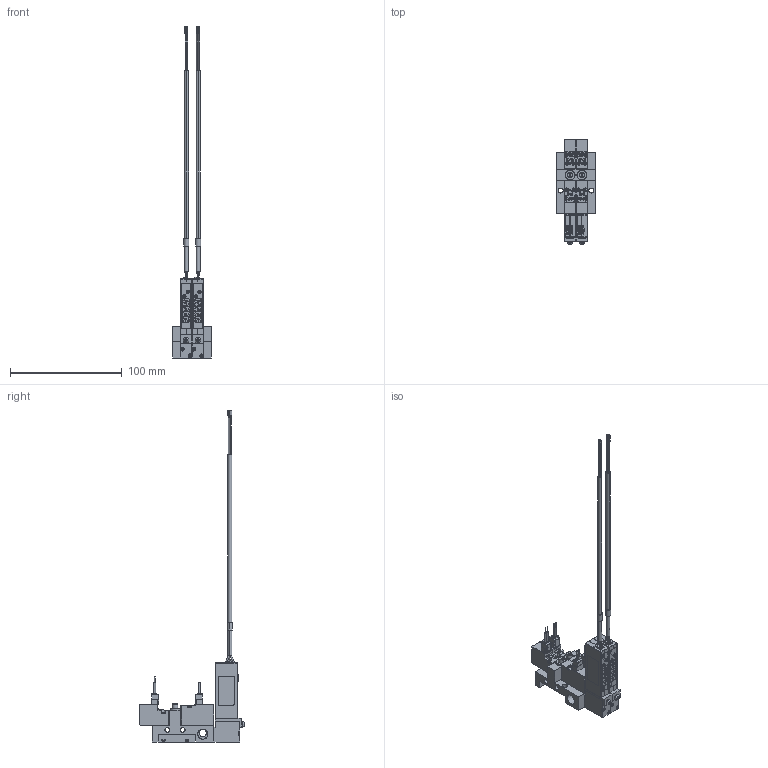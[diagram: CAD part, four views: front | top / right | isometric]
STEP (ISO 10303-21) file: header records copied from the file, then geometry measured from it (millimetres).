
FILE_DESCRIPTION(('STEP AP203'),'1');
FILE_NAME('2-NO(NC)-4EZ-M02-V9.stp','2025-05-09T00:47:12',(' '),(' '),'Spatial InterOp 3D',' ',' ');
FILE_SCHEMA(('CONFIG_CONTROL_DESIGN'));
Length unit declared in the file: millimetre
Products named in the file (60): PV1※2-NO(NC)-4EZ-M02-V9; BODY; PLATE; NEEDLE; BOLT; SOLENOID VALVE VOLTAGE PV; 42; 45; 48; 51; BRAKET(MPS-V9  PV용)NEW; BRAKET; MPS-V9AC.ics; __1; MPS-V9AC; MSBR-29_1; MSBR-28_1; MSBR-27_1; MSBR-26_1; MSBR-25_1; MSBR-24_1; MSBR-21_1; MSBR-7_1; MSBR-4_1; MSBR-1_1; SOLENOID VALVE VOLTAGE PV-NC2
Assembly tree (59 placements, depth 5):
  PV1※2-NO(NC)-4EZ-M02-V9
    BODY
    PLATE
    PLATE
    NEEDLE
    NEEDLE
    BOLT
    BOLT
    BOLT
    BOLT
    BOLT
    BOLT
    SOLENOID VALVE VOLTAGE PV
      42
      45
      48
      51
    SOLENOID VALVE VOLTAGE PV
      42
      45
      48
      51
    BRAKET(MPS-V9  PV용)NEW
      BRAKET
      BOLT
      BOLT
      MPS-V9AC.ics
        __1
        MPS-V9AC
          MSBR-29_1
          MSBR-28_1
          MSBR-27_1
          MSBR-26_1
          MSBR-25_1
          MSBR-24_1
          MSBR-21_1
          MSBR-7_1
          MSBR-4_1
          MSBR-4_1
          MSBR-1_1
    BRAKET(MPS-V9  PV용)NEW
      BRAKET
      BOLT
      BOLT
      MPS-V9AC.ics
        __1
        MPS-V9AC
          MSBR-29_1
          MSBR-28_1
          MSBR-27_1
          MSBR-26_1
          MSBR-25_1
          MSBR-24_1
          MSBR-21_1
          MSBR-7_1
          MSBR-4_1
          MSBR-4_1
          MSBR-1_1
    SOLENOID VALVE VOLTAGE PV-NC2
    SOLENOID VALVE VOLTAGE PV-NC2
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Bounding box: 34.5 x 94.29 x 297.25 mm (x, y, z)
Volume: 61679.1 mm3; surface area: 51421.2 mm2
Topology: 49 solids, 67 shells, 2467 faces, 6700 edges, 4509 vertices
Faces by surface type: plane 1922, cylinder 417, torus 46, bspline 30, cone 24, extrusion 20, sphere 8
Full cylindrical faces by diameter (mm): 1.4 x4, 2 x6, 2.3 x4, 2.5 x2, 3 x14, 3.5 x2, 4.2 x6, 4.5 x2, 5 x4, 6.5 x1, 8.797 x2, 9 x2
Entity records: 80958 total; most frequent: CARTESIAN_POINT 15547, ORIENTED_EDGE 12944, DIRECTION 12544, EDGE_CURVE 6548, VECTOR 5102, LINE 5082, VERTEX_POINT 4460, AXIS2_PLACEMENT_3D 3721
